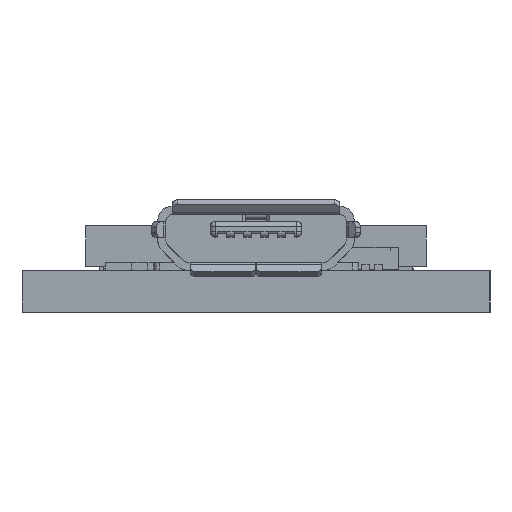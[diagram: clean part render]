
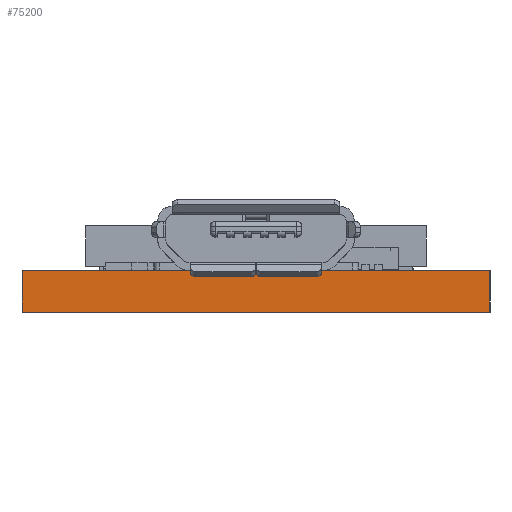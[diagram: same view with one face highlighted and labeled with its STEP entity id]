
A CAD part, left-side view. The second image highlights one B-rep face of the part: STEP entity #75200.
In plain terms, the highlighted planar face has unit normal (-1, 0, 0).
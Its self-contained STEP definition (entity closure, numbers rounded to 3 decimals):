
#75164=AXIS2_PLACEMENT_3D('Plane Axis2P3D',#75161,#75162,#75163) ;
#75161=CARTESIAN_POINT('Axis2P3D Location',(0.,8.938,0.)) ;
#75166=CARTESIAN_POINT('Line Origine',(0.,8.938,0.8)) ;
#75170=CARTESIAN_POINT('Vertex',(0.,8.938,1.6)) ;
#75172=CARTESIAN_POINT('Vertex',(0.,8.938,0.)) ;
#75175=CARTESIAN_POINT('Line Origine',(0.,0.,0.)) ;
#75179=CARTESIAN_POINT('Vertex',(0.,-8.938,0.)) ;
#75182=CARTESIAN_POINT('Line Origine',(0.,-8.938,0.8)) ;
#75186=CARTESIAN_POINT('Vertex',(0.,-8.938,1.6)) ;
#75189=CARTESIAN_POINT('Line Origine',(0.,0.,1.6)) ;
#75162=DIRECTION('Axis2P3D Direction',(-1.,0.,0.)) ;
#75163=DIRECTION('Axis2P3D XDirection',(0.,-1.,0.)) ;
#75167=DIRECTION('Vector Direction',(0.,0.,1.)) ;
#75176=DIRECTION('Vector Direction',(0.,-1.,0.)) ;
#75183=DIRECTION('Vector Direction',(0.,0.,1.)) ;
#75190=DIRECTION('Vector Direction',(0.,-1.,0.)) ;
#75168=VECTOR('Line Direction',#75167,1.) ;
#75177=VECTOR('Line Direction',#75176,1.) ;
#75184=VECTOR('Line Direction',#75183,1.) ;
#75191=VECTOR('Line Direction',#75190,1.) ;
#75195=ORIENTED_EDGE('',*,*,#75174,.T.) ;
#75196=ORIENTED_EDGE('',*,*,#75181,.F.) ;
#75197=ORIENTED_EDGE('',*,*,#75188,.F.) ;
#75198=ORIENTED_EDGE('',*,*,#75193,.T.) ;
#75200=ADVANCED_FACE('PartBody',(#75199),#75165,.T.) ;
#75174=EDGE_CURVE('',#75171,#75173,#75169,.F.) ;
#75181=EDGE_CURVE('',#75180,#75173,#75178,.F.) ;
#75188=EDGE_CURVE('',#75187,#75180,#75185,.F.) ;
#75193=EDGE_CURVE('',#75187,#75171,#75192,.F.) ;
#75194=EDGE_LOOP('',(#75195,#75196,#75197,#75198)) ;
#75199=FACE_OUTER_BOUND('',#75194,.T.) ;
#75169=LINE('Line',#75166,#75168) ;
#75178=LINE('Line',#75175,#75177) ;
#75185=LINE('Line',#75182,#75184) ;
#75192=LINE('Line',#75189,#75191) ;
#75165=PLANE('',#75164) ;
#75171=VERTEX_POINT('',#75170) ;
#75173=VERTEX_POINT('',#75172) ;
#75180=VERTEX_POINT('',#75179) ;
#75187=VERTEX_POINT('',#75186) ;
